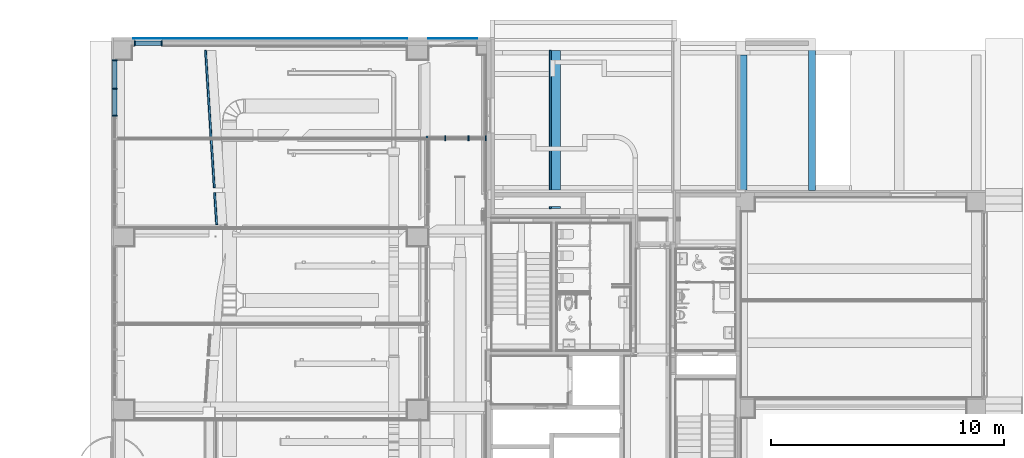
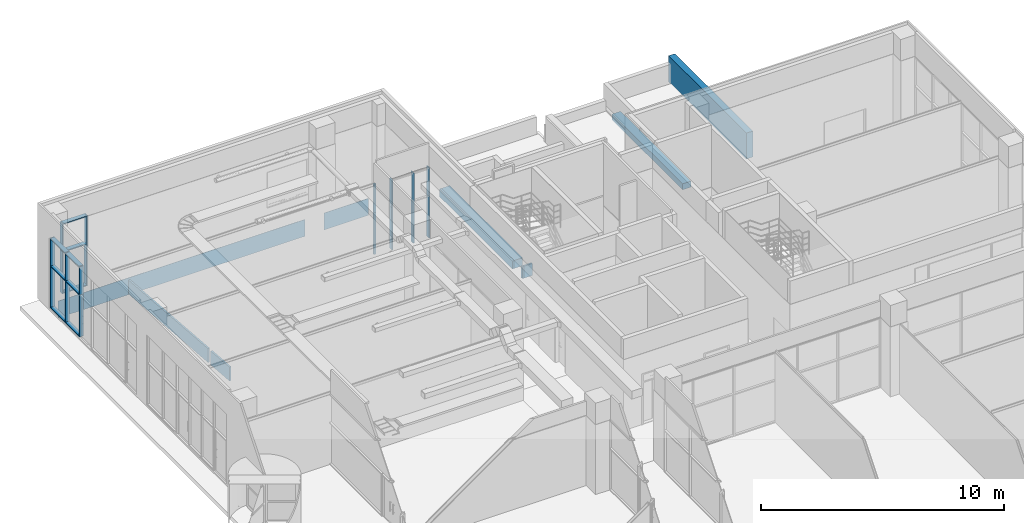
# One storey, part 16 of 100: 27 members, 7 beams, 4 elements without a shape of their own.
"""IFC2X3 building model written with IfcOpenShell, lengths in millimetres."""

import ifcopenshell
import ifcopenshell.guid

model = None  # the IFC model being written
_history = None  # IfcOwnerHistory: only IFC2X3 demands one
_inside = {}  # id of a spatial element -> (the spatial element, [elements in it])
_under = {}  # id of a project, library or spatial element -> (it, [spatial elements below it])
_declared = {}  # id of a project -> (the project, [libraries it declares])
_typed = {}  # id of a type object -> (the type object, [elements of that type])
_made_of = {}  # id of a material, layer set ... -> (it, [elements and type objects made of it])


def new_model(schema):
    """Start an empty IFC model of exactly this schema.

    Asked for "IFC4X3", IfcOpenShell would pick the latest addendum, in which some entities
    have other attributes; the version numbers below select the first issue.
    IFC2X3 requires an IfcOwnerHistory on every rooted entity: one is made here for all.
    """
    global model, _history
    if schema == "IFC4X3":
        model = ifcopenshell.file(schema_version=(4, 3, 0, 0))
    else:
        model = ifcopenshell.file(schema=schema)
    _inside.clear()
    _under.clear()
    _declared.clear()
    _typed.clear()
    _made_of.clear()
    _history = None
    if model.schema == "IFC2X3":
        org = make("IfcOrganization", Name="unknown")
        user = make(
            "IfcPersonAndOrganization",
            ThePerson=make("IfcPerson", FamilyName="unknown"),
            TheOrganization=org,
        )
        app = make(
            "IfcApplication",
            ApplicationDeveloper=org,
            Version="unknown",
            ApplicationFullName="unknown",
            ApplicationIdentifier="unknown",
        )
        _history = make(
            "IfcOwnerHistory",
            OwningUser=user,
            OwningApplication=app,
            ChangeAction="ADDED",
            CreationDate=0,
        )
    return model


def make(cls, **values):
    """One entity of the class cls with the attributes given. An attribute that is None is left unset."""
    return model.create_entity(
        cls, **{name: value for name, value in values.items() if value is not None}
    )


def entity(cls, *values):
    """Any entity or typed value of the class cls, its attributes in the order of the schema. None: left unset."""
    e = model.create_entity(cls)
    for i, value in enumerate(values):
        if value is not None:
            e[i] = value
    return e


def rooted(cls, **values):
    """An entity with a GlobalId (a new one), such as an element, a storey or a relation."""
    return make(cls, GlobalId=ifcopenshell.guid.new(), OwnerHistory=_history, **values)


def si_unit(unit_type, name, prefix=None):
    """IfcSIUnit, for example si_unit("LENGTHUNIT", "METRE", prefix="MILLI")."""
    return make("IfcSIUnit", UnitType=unit_type, Prefix=prefix, Name=name)


def converted_unit(unit_type, name, factor, base, dimensions=None, offset=None):
    """IfcConversionBasedUnit, such as the inch: factor (a typed value) times the base unit."""
    return make(
        "IfcConversionBasedUnit"
        if offset is None
        else "IfcConversionBasedUnitWithOffset",
        ConversionOffset=offset,
        Dimensions=None
        if dimensions is None
        else entity("IfcDimensionalExponents", *dimensions),
        UnitType=unit_type,
        Name=name,
        ConversionFactor=make(
            "IfcMeasureWithUnit", ValueComponent=factor, UnitComponent=base
        ),
    )


def derived_unit(unit_type, elements):
    """IfcDerivedUnit: a product of units, each with its exponent."""
    return make(
        "IfcDerivedUnit",
        Elements=[
            make("IfcDerivedUnitElement", Unit=unit, Exponent=power)
            for unit, power in elements
        ],
        UnitType=unit_type,
    )


def assignment(units):
    """IfcUnitAssignment: the units of a project."""
    return None if units is None else make("IfcUnitAssignment", Units=units)


def point(xyz):
    """IfcCartesianPoint."""
    return None if xyz is None else make("IfcCartesianPoint", Coordinates=xyz)


def direction(xyz):
    """IfcDirection."""
    return None if xyz is None else make("IfcDirection", DirectionRatios=xyz)


def frame(location, z_axis=None, x_axis=None):
    """IfcAxis2Placement3D, a coordinate frame: its origin and axes. An axis left out is left unset."""
    return make(
        "IfcAxis2Placement3D",
        Location=point(location),
        Axis=direction(z_axis),
        RefDirection=direction(x_axis),
    )


def frame_2d(location, x_axis=None):
    """IfcAxis2Placement2D, a coordinate frame in the plane: its origin and x axis."""
    return make(
        "IfcAxis2Placement2D", Location=point(location), RefDirection=direction(x_axis)
    )


def origin():
    """The frame at (0, 0, 0) with its axes left unset."""
    return frame((0.0, 0.0, 0.0))


def origin_2d_with_axis():
    """The frame at (0, 0) in the plane with the x axis (1, 0) written out."""
    return frame_2d((0.0, 0.0), x_axis=(1.0, 0.0))


def place(relative_to, where):
    """IfcLocalPlacement: puts the frame where relative to a parent placement (None: the world)."""
    return make(
        "IfcLocalPlacement", PlacementRelTo=relative_to, RelativePlacement=where
    )


def context(
    kind, dimensions, precision=None, world=None, true_north=None, identifier=None
):
    """IfcGeometricRepresentationContext, for example the 3D "Model" context."""
    return make(
        "IfcGeometricRepresentationContext",
        ContextIdentifier=identifier,
        ContextType=kind,
        CoordinateSpaceDimension=dimensions,
        Precision=precision,
        WorldCoordinateSystem=world,
        TrueNorth=true_north,
    )


def subcontext(parent, identifier, kind, view, scale=None):
    """IfcGeometricRepresentationSubContext, for example "Body" below "Model"."""
    return make(
        "IfcGeometricRepresentationSubContext",
        ContextIdentifier=identifier,
        ContextType=kind,
        ParentContext=parent,
        TargetScale=scale,
        TargetView=view,
    )


def project(units=None, contexts=None):
    """IfcProject with its units and contexts."""
    return rooted(
        "IfcProject",
        Name="project",
        RepresentationContexts=contexts,
        UnitsInContext=assignment(units),
    )


def spatial(cls, under=None, at=None, **own):
    """A site, building, storey or space (cls), placed at a placement, below another one or the project."""
    s = rooted(cls, ObjectPlacement=at, **own)
    if under is not None:
        _under.setdefault(under.id(), (under, []))[1].append(s)
    return s


def profile(cls, at=None, kind="AREA", **sizes):
    """A parametric profile (cls). Its sizes go by their IFC names, for example OverallWidth=200.0."""
    return make(cls, ProfileType=kind, Position=at, **sizes)


def rectangle(**sizes):
    """IfcRectangleProfileDef."""
    return profile("IfcRectangleProfileDef", **sizes)


def extrude(swept, where, along, depth):
    """IfcExtrudedAreaSolid: the profile swept, set in the frame where, extruded along a direction by depth."""
    return make(
        "IfcExtrudedAreaSolid",
        SweptArea=swept,
        Position=where,
        ExtrudedDirection=direction(along),
        Depth=depth,
    )


def clip(a, b, op="DIFFERENCE"):
    """IfcBooleanClippingResult: the solid a cut by the half space b."""
    return make(
        "IfcBooleanClippingResult", Operator=op, FirstOperand=a, SecondOperand=b
    )


def halfspace(plane, agree):
    """IfcHalfSpaceSolid: all space on one side of the plane z = 0 of the frame plane."""
    return make(
        "IfcHalfSpaceSolid",
        BaseSurface=make("IfcPlane", Position=plane),
        AgreementFlag=agree,
    )


def shape(context_of_items, identifier, shape_type, items):
    """IfcShapeRepresentation: the items that make up one representation, for example the "Body"."""
    return make(
        "IfcShapeRepresentation",
        ContextOfItems=context_of_items,
        RepresentationIdentifier=identifier,
        RepresentationType=shape_type,
        Items=items,
    )


def source(mapping_origin, context_of_items, identifier, shape_type, items):
    """IfcRepresentationMap: a shape defined once, which mapped items show again and again."""
    return make(
        "IfcRepresentationMap",
        MappingOrigin=mapping_origin,
        MappedRepresentation=shape(context_of_items, identifier, shape_type, items),
    )


def transform(
    local_origin,
    x_axis=None,
    y_axis=None,
    z_axis=None,
    scale=None,
    scale2=None,
    scale3=None,
    uniform=True,
):
    """IfcCartesianTransformationOperator3D, or its non-uniform kind. x_axis, y_axis, z_axis: its Axis1, 2, 3."""
    if uniform:
        return make(
            "IfcCartesianTransformationOperator3D",
            Axis1=direction(x_axis),
            Axis2=direction(y_axis),
            LocalOrigin=point(local_origin),
            Scale=scale,
            Axis3=direction(z_axis),
        )
    return make(
        "IfcCartesianTransformationOperator3DnonUniform",
        Axis1=direction(x_axis),
        Axis2=direction(y_axis),
        LocalOrigin=point(local_origin),
        Scale=scale,
        Axis3=direction(z_axis),
        Scale2=scale2,
        Scale3=scale3,
    )


def mapped(mapping_source, mapping_target):
    """IfcMappedItem: shows the shape of a source again, moved by a transform."""
    return make(
        "IfcMappedItem", MappingSource=mapping_source, MappingTarget=mapping_target
    )


def material(Name=None, Category=None):
    """IfcMaterial."""
    return make("IfcMaterial", Name=Name, Category=Category)


def made_of(thing, what):
    """Note that an element or type object is made of a material, layer set ...; save() writes the relation."""
    if what is not None:
        _made_of.setdefault(what.id(), (what, []))[1].append(thing)
    return thing


def type_object(cls, material=None, **own):
    """A type object (cls), such as IfcWallType, which elements share."""
    return made_of(rooted(cls, **own), material)


def type_shapes(of_type, sources):
    """Give a type object the sources (RepresentationMaps) that its elements show as mapped items."""
    of_type.RepresentationMaps = sources


def element(
    cls,
    number,
    at=None,
    inside=None,
    cuts=None,
    type_object=None,
    material=None,
    context=None,
    identifier="Body",
    shape_type=None,
    held_by="IfcProductDefinitionShape",
    body=None,
    shapes=None,
    **own,
):
    """One element of the class cls, such as IfcWall. Its Tag is "e" and its number.

    at: its placement. inside: the storey or other place that contains it. cuts: it is an
    opening in that element (IfcRelVoidsElement). A single representation is given by context,
    identifier, shape_type and body (its items); several are given by shapes. held_by: the class
    of the entity that holds the representations. save() writes the other relations.
    """
    e = rooted(cls, Tag="e%d" % number, ObjectPlacement=at, **own)
    if body is not None:
        shapes = [shape(context, identifier, shape_type, body)]
    if shapes is not None:
        e.Representation = make(held_by, Representations=shapes)
    if inside is not None:
        _inside.setdefault(inside.id(), (inside, []))[1].append(e)
    if cuts is not None:
        rooted(
            "IfcRelVoidsElement", RelatingBuildingElement=cuts, RelatedOpeningElement=e
        )
    if type_object is not None:
        _typed.setdefault(type_object.id(), (type_object, []))[1].append(e)
    return made_of(e, material)


def aggregate(whole, parts):
    """IfcRelAggregates: a whole, such as a stair, and the parts it consists of."""
    return rooted("IfcRelAggregates", RelatingObject=whole, RelatedObjects=parts)


def save(model, path):
    """Write the relations noted so far, then the file.

    IfcRelAggregates (storeys below a building ...), IfcRelContainedInSpatialStructure (elements
    in a storey), IfcRelDefinesByType, IfcRelAssociatesMaterial and IfcRelDeclares: one each for
    every whole, place, type object, material and project.
    """
    for whole, parts in _under.values():
        aggregate(whole, parts)
    for where, things in _inside.values():
        rooted(
            "IfcRelContainedInSpatialStructure",
            RelatedElements=things,
            RelatingStructure=where,
        )
    for kind, things in _typed.values():
        rooted("IfcRelDefinesByType", RelatedObjects=things, RelatingType=kind)
    for what, things in _made_of.values():
        rooted("IfcRelAssociatesMaterial", RelatedObjects=things, RelatingMaterial=what)
    for by, libraries in _declared.values():
        rooted("IfcRelDeclares", RelatingContext=by, RelatedDefinitions=libraries)
    model.write(path)


model = new_model("IFC2X3")

# Units and contexts
model_context = context("Model", 3, precision=0.01, world=origin(), true_north=direction((6.123031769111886e-17, 1.0)))
body_context = subcontext(model_context, "Body", "Model", "MODEL_VIEW")
ifc_project = project(units=[si_unit("LENGTHUNIT", "METRE", prefix="MILLI"), si_unit("AREAUNIT", "SQUARE_METRE"), si_unit("VOLUMEUNIT", "CUBIC_METRE"), converted_unit("PLANEANGLEUNIT", "DEGREE", entity("IfcRatioMeasure", 0.017453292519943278), si_unit("PLANEANGLEUNIT", "RADIAN"), dimensions=[0, 0, 0, 0, 0, 0, 0]), si_unit("MASSUNIT", "GRAM", prefix="KILO"), derived_unit("MASSDENSITYUNIT", [(si_unit("MASSUNIT", "GRAM", prefix="KILO"), 1), (si_unit("LENGTHUNIT", "METRE"), -3)]), derived_unit("MOMENTOFINERTIAUNIT", [(si_unit("LENGTHUNIT", "METRE"), 4)]), si_unit("TIMEUNIT", "SECOND"), si_unit("FREQUENCYUNIT", "HERTZ"), si_unit("THERMODYNAMICTEMPERATUREUNIT", "DEGREE_CELSIUS"), derived_unit("THERMALTRANSMITTANCEUNIT", [(si_unit("MASSUNIT", "GRAM", prefix="KILO"), 1), (si_unit("THERMODYNAMICTEMPERATUREUNIT", "KELVIN"), -1), (si_unit("TIMEUNIT", "SECOND"), -3)]), derived_unit("VOLUMETRICFLOWRATEUNIT", [(si_unit("LENGTHUNIT", "METRE"), 3), (si_unit("TIMEUNIT", "SECOND"), -1)]), derived_unit("MASSFLOWRATEUNIT", [(si_unit("MASSUNIT", "GRAM", prefix="KILO"), 1), (si_unit("TIMEUNIT", "SECOND"), -1)]), derived_unit("ROTATIONALFREQUENCYUNIT", [(si_unit("TIMEUNIT", "SECOND"), -1)]), si_unit("ELECTRICCURRENTUNIT", "AMPERE"), si_unit("ELECTRICVOLTAGEUNIT", "VOLT"), si_unit("POWERUNIT", "WATT"), si_unit("FORCEUNIT", "NEWTON", prefix="KILO"), si_unit("ILLUMINANCEUNIT", "LUX"), si_unit("LUMINOUSFLUXUNIT", "LUMEN"), si_unit("LUMINOUSINTENSITYUNIT", "CANDELA"), derived_unit("USERDEFINED", [(si_unit("MASSUNIT", "GRAM", prefix="KILO"), -1), (si_unit("LENGTHUNIT", "METRE"), -2), (si_unit("TIMEUNIT", "SECOND"), 3), (si_unit("LUMINOUSFLUXUNIT", "LUMEN"), 1)]), derived_unit("SOUNDPOWERUNIT", [(si_unit("MASSUNIT", "GRAM", prefix="KILO"), 1), (si_unit("LENGTHUNIT", "METRE"), 2), (si_unit("TIMEUNIT", "SECOND"), -3)]), derived_unit("SOUNDPRESSUREUNIT", [(si_unit("MASSUNIT", "GRAM", prefix="KILO"), 1), (si_unit("LENGTHUNIT", "METRE"), -1), (si_unit("TIMEUNIT", "SECOND"), -2)]), derived_unit("LINEARVELOCITYUNIT", [(si_unit("LENGTHUNIT", "METRE"), 1), (si_unit("TIMEUNIT", "SECOND"), -1)]), si_unit("PRESSUREUNIT", "PASCAL"), derived_unit("USERDEFINED", [(si_unit("LENGTHUNIT", "METRE"), -2), (si_unit("MASSUNIT", "GRAM", prefix="KILO"), 1), (si_unit("TIMEUNIT", "SECOND"), -2)]), derived_unit("LINEARFORCEUNIT", [(si_unit("MASSUNIT", "GRAM", prefix="KILO"), 1), (si_unit("LENGTHUNIT", "METRE"), 1), (si_unit("TIMEUNIT", "SECOND"), -2), (si_unit("LENGTHUNIT", "METRE"), -1)]), derived_unit("PLANARFORCEUNIT", [(si_unit("MASSUNIT", "GRAM", prefix="KILO"), 1), (si_unit("LENGTHUNIT", "METRE"), 1), (si_unit("TIMEUNIT", "SECOND"), -2), (si_unit("LENGTHUNIT", "METRE"), -2)])], contexts=[model_context])

# Site, building, storey
site_placement = place(None, frame((-14167.972527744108, -657.2125860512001, 0.0)))
site = spatial("IfcSite", under=ifc_project, at=site_placement, Name="Default", CompositionType="ELEMENT")
building_placement = place(site_placement, origin())
building = spatial("IfcBuilding", under=site, at=building_placement, Name="Sample Building", CompositionType="ELEMENT")
storey_placement = place(building_placement, origin())
storey = spatial("IfcBuildingStorey", under=building, at=storey_placement, Name="지상 1층", CompositionType="ELEMENT", Elevation=0.0)

# Curtain wall, members
curtain_wall_type = type_object("IfcCurtainWallType", Name="커튼월:CW112-스테인리스 스틸 커튼월", PredefinedType="NOTDEFINED")
curtain_wall_1_placement = place(storey_placement, origin())
curtain_wall_1 = element("IfcCurtainWall", 1, at=curtain_wall_1_placement, inside=storey, type_object=curtain_wall_type, Name="커튼월:CW112-스테인리스 스틸 커튼월", ObjectType="커튼월:CW112-스테인리스 스틸 커튼월")
ifc_material_1 = material(Name="<Unnamed>")
member_type_1 = type_object("IfcMemberType", Name="직사각형 멀리언:CW200-직사각형 멀리언 50x200mm", PredefinedType="MULLION", material=ifc_material_1)
shared_shape_1 = source(origin(), body_context, "Body", "SweptSolid", [
    extrude(rectangle(XDim=200.0, YDim=50.0, at=origin_2d_with_axis()), frame((-25.0, 0.0, -1175.0), z_axis=(0.0, 0.0, 1.0), x_axis=(0.0, -1.0, 0.0)), (0.0, 0.0, 1.0), 1175.0000000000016),
])
type_shapes(member_type_1, [shared_shape_1])
member_1_placement = place(curtain_wall_1_placement, frame((14130.455105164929, 34907.21228055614, 80.0), z_axis=(0.0, 1.0, 0.0), x_axis=(0.0, 0.0, -1.0)))
member_1 = element("IfcMember", 2, at=member_1_placement, type_object=member_type_1, material=ifc_material_1, Name="직사각형 멀리언:CW200-직사각형 멀리언 50x200mm", ObjectType="직사각형 멀리언:CW200-직사각형 멀리언 50x200mm", context=body_context, shape_type="MappedRepresentation", body=[
    mapped(shared_shape_1, transform((0.0, 0.0, 0.0), scale=1.0)),
])
member_type_2 = type_object("IfcMemberType", Name="직사각형 멀리언:CW200-직사각형 멀리언 50x200mm", PredefinedType="MULLION", material=ifc_material_1)
shared_shape_2 = source(origin(), body_context, "Body", "SweptSolid", [
    extrude(rectangle(XDim=200.0, YDim=50.0, at=origin_2d_with_axis()), frame((-25.0, 0.0, -1420.0), z_axis=(0.0, 0.0, 1.0), x_axis=(0.0, -1.0, 0.0)), (0.0, 0.0, 1.0), 1420.0000000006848),
])
type_shapes(member_type_2, [shared_shape_2])
member_2_placement = place(curtain_wall_1_placement, frame((14130.455105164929, 34957.21228055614, 3600.0), z_axis=(0.0, 0.0, 1.0), x_axis=(0.0, 1.0, 0.0)))
member_2 = element("IfcMember", 3, at=member_2_placement, type_object=member_type_2, material=ifc_material_1, Name="직사각형 멀리언:CW200-직사각형 멀리언 50x200mm", ObjectType="직사각형 멀리언:CW200-직사각형 멀리언 50x200mm", context=body_context, shape_type="MappedRepresentation", body=[
    mapped(shared_shape_2, transform((0.0, 0.0, 0.0), scale=1.0)),
])

# Curtain wall, member
curtain_wall_2_placement = place(storey_placement, origin())
curtain_wall_2 = element("IfcCurtainWall", 4, at=curtain_wall_2_placement, inside=storey, type_object=curtain_wall_type, Name="커튼월:CW112-스테인리스 스틸 커튼월", ObjectType="커튼월:CW112-스테인리스 스틸 커튼월")
member_3_placement = place(curtain_wall_2_placement, frame((14967.998485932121, 35657.21229514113, 3600.0), z_axis=(0.0, 0.0, 1.0), x_axis=(-1.0, 0.0, 0.0)))
member_3 = element("IfcMember", 5, at=member_3_placement, type_object=member_type_2, material=ifc_material_1, Name="직사각형 멀리언:CW200-직사각형 멀리언 50x200mm", ObjectType="직사각형 멀리언:CW200-직사각형 멀리언 50x200mm", context=body_context, shape_type="MappedRepresentation", body=[
    mapped(shared_shape_2, transform((0.0, 0.0, 0.0), scale=1.0)),
])

# Member
member_type_3 = type_object("IfcMemberType", Name="직사각형 멀리언:CW200-직사각형 멀리언 50x200mm", PredefinedType="MULLION", material=ifc_material_1)
shared_shape_3 = source(origin(), body_context, "Body", "SweptSolid", [
    extrude(rectangle(XDim=200.0, YDim=50.0, at=origin_2d_with_axis()), frame((-25.0, 0.0, -1175.0), z_axis=(0.0, 0.0, 1.0), x_axis=(0.0, -1.0, 0.0)), (0.0, 0.0, 1.0), 1175.000000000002),
])
type_shapes(member_type_3, [shared_shape_3])
member_4_placement = place(curtain_wall_1_placement, frame((14130.455105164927, 33732.177748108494, 3600.0), z_axis=(0.0, -1.0, 0.0), x_axis=(0.0, 0.0, 1.0)))
member_4 = element("IfcMember", 6, at=member_4_placement, type_object=member_type_3, material=ifc_material_1, Name="직사각형 멀리언:CW200-직사각형 멀리언 50x200mm", ObjectType="직사각형 멀리언:CW200-직사각형 멀리언 50x200mm", context=body_context, shape_type="MappedRepresentation", body=[
    mapped(shared_shape_3, transform((0.0, 0.0, 0.0), scale=1.0)),
])

member_type_4 = type_object("IfcMemberType", Name="직사각형 멀리언:CW200-직사각형 멀리언 50x200mm", PredefinedType="MULLION", material=ifc_material_1)
shared_shape_4 = source(origin(), body_context, "Body", "SweptSolid", [
    extrude(rectangle(XDim=200.0, YDim=50.0, at=origin_2d_with_axis()), frame((-25.0, 0.0, -1100.0), z_axis=(0.0, 0.0, 1.0), x_axis=(0.0, -1.0, 0.0)), (0.0, 0.0, 1.0), 1100.0000000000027),
])
type_shapes(member_type_4, [shared_shape_4])
member_5_placement = place(curtain_wall_1_placement, frame((14130.455105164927, 33682.1777481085, 80.0), z_axis=(0.0, 1.0, 0.0), x_axis=(0.0, 0.0, -1.0)))
member_5 = element("IfcMember", 7, at=member_5_placement, type_object=member_type_4, material=ifc_material_1, Name="직사각형 멀리언:CW200-직사각형 멀리언 50x200mm", ObjectType="직사각형 멀리언:CW200-직사각형 멀리언 50x200mm", context=body_context, shape_type="MappedRepresentation", body=[
    mapped(shared_shape_4, transform((0.0, 0.0, 0.0), scale=1.0)),
])

member_6_placement = place(curtain_wall_2_placement, frame((15017.998485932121, 35657.21229514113, 80.0), z_axis=(-1.0, 0.0, 0.0), x_axis=(0.0, 0.0, -1.0)))
member_6 = element("IfcMember", 8, at=member_6_placement, type_object=member_type_4, material=ifc_material_1, Name="직사각형 멀리언:CW200-직사각형 멀리언 50x200mm", ObjectType="직사각형 멀리언:CW200-직사각형 멀리언 50x200mm", context=body_context, shape_type="MappedRepresentation", body=[
    mapped(shared_shape_4, transform((0.0, 0.0, 0.0), scale=1.0)),
])

member_type_5 = type_object("IfcMemberType", Name="직사각형 멀리언:CW200-직사각형 멀리언 50x200mm", PredefinedType="MULLION", material=ifc_material_1)
shared_shape_5 = source(origin(), body_context, "Body", "SweptSolid", [
    extrude(rectangle(XDim=200.0, YDim=50.0, at=origin_2d_with_axis()), frame((0.0, 0.0, -2100.0), z_axis=(0.0, 0.0, 1.0), x_axis=(0.0, -1.0, 0.0)), (0.0, 0.0, 1.0), 2100.0),
])
type_shapes(member_type_5, [shared_shape_5])
member_7_placement = place(curtain_wall_1_placement, frame((14130.455105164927, 33707.177748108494, 80.0), z_axis=(0.0, 0.0, -1.0), x_axis=(0.0, -1.0, 0.0)))
member_7 = element("IfcMember", 9, at=member_7_placement, type_object=member_type_5, material=ifc_material_1, Name="직사각형 멀리언:CW200-직사각형 멀리언 50x200mm", ObjectType="직사각형 멀리언:CW200-직사각형 멀리언 50x200mm", context=body_context, shape_type="MappedRepresentation", body=[
    mapped(shared_shape_5, transform((0.0, 0.0, 0.0), scale=1.0)),
])

member_8_placement = place(curtain_wall_1_placement, frame((14130.455105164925, 32557.177748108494, 80.0), z_axis=(0.0, 0.0, -1.0), x_axis=(0.0, -1.0, 0.0)))
member_8 = element("IfcMember", 10, at=member_8_placement, type_object=member_type_5, material=ifc_material_1, Name="직사각형 멀리언:CW200-직사각형 멀리언 50x200mm", ObjectType="직사각형 멀리언:CW200-직사각형 멀리언 50x200mm", context=body_context, shape_type="MappedRepresentation", body=[
    mapped(shared_shape_5, transform((0.0, 0.0, 0.0), scale=1.0)),
])

# Curtain wall, members
curtain_wall_3_placement = place(storey_placement, origin())
curtain_wall_3 = element("IfcCurtainWall", 11, at=curtain_wall_3_placement, inside=storey, type_object=curtain_wall_type, Name="커튼월:CW112-스테인리스 스틸 커튼월", ObjectType="커튼월:CW112-스테인리스 스틸 커튼월")
member_9_placement = place(curtain_wall_3_placement, frame((28299.125814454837, 31587.177748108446, 80.0), z_axis=(0.0, 0.0, -1.0), x_axis=(1.0, 0.0, 0.0)))
member_9 = element("IfcMember", 12, at=member_9_placement, type_object=member_type_5, material=ifc_material_1, Name="직사각형 멀리언:CW200-직사각형 멀리언 50x200mm", ObjectType="직사각형 멀리언:CW200-직사각형 멀리언 50x200mm", context=body_context, shape_type="MappedRepresentation", body=[
    mapped(shared_shape_5, transform((0.0, 0.0, 0.0), scale=1.0)),
])
member_10_placement = place(curtain_wall_3_placement, frame((29299.125814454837, 31587.177748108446, 80.0), z_axis=(0.0, 0.0, -1.0), x_axis=(1.0, 0.0, 0.0)))
member_10 = element("IfcMember", 13, at=member_10_placement, type_object=member_type_5, material=ifc_material_1, Name="직사각형 멀리언:CW200-직사각형 멀리언 50x200mm", ObjectType="직사각형 멀리언:CW200-직사각형 멀리언 50x200mm", context=body_context, shape_type="MappedRepresentation", body=[
    mapped(shared_shape_5, transform((0.0, 0.0, 0.0), scale=1.0)),
])

# Member
member_type_6 = type_object("IfcMemberType", Name="직사각형 멀리언:CW200-직사각형 멀리언 50x200mm", PredefinedType="MULLION", material=ifc_material_1)
shared_shape_6 = source(origin(), body_context, "Body", "SweptSolid", [
    extrude(rectangle(XDim=200.0, YDim=50.0, at=origin_2d_with_axis()), frame((-25.0, 0.0, -1100.0), z_axis=(0.0, 0.0, 1.0), x_axis=(0.0, -1.0, 0.0)), (0.0, 0.0, 1.0), 1100.0000000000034),
])
type_shapes(member_type_6, [shared_shape_6])
member_11_placement = place(curtain_wall_1_placement, frame((14130.455105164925, 32582.177748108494, 3600.0), z_axis=(0.0, -1.0, 0.0), x_axis=(0.0, 0.0, 1.0)))
member_11 = element("IfcMember", 14, at=member_11_placement, type_object=member_type_6, material=ifc_material_1, Name="직사각형 멀리언:CW200-직사각형 멀리언 50x200mm", ObjectType="직사각형 멀리언:CW200-직사각형 멀리언 50x200mm", context=body_context, shape_type="MappedRepresentation", body=[
    mapped(shared_shape_6, transform((0.0, 0.0, 0.0), scale=1.0)),
])

member_12_placement = place(curtain_wall_2_placement, frame((16117.998485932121, 35657.21229514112, 3600.0), z_axis=(1.0, 0.0, 0.0), x_axis=(0.0, 0.0, 1.0)))
member_12 = element("IfcMember", 15, at=member_12_placement, type_object=member_type_6, material=ifc_material_1, Name="직사각형 멀리언:CW200-직사각형 멀리언 50x200mm", ObjectType="직사각형 멀리언:CW200-직사각형 멀리언 50x200mm", context=body_context, shape_type="MappedRepresentation", body=[
    mapped(shared_shape_6, transform((0.0, 0.0, 0.0), scale=1.0)),
])

member_type_7 = type_object("IfcMemberType", Name="직사각형 멀리언:CW200-직사각형 멀리언 50x200mm", PredefinedType="MULLION", material=ifc_material_1)
shared_shape_7 = source(origin(), body_context, "Body", "SweptSolid", [
    extrude(rectangle(XDim=200.0, YDim=50.0, at=origin_2d_with_axis()), frame((-25.0, 0.0, -1420.0), z_axis=(0.0, 0.0, 1.0), x_axis=(0.0, -1.0, 0.0)), (0.0, 0.0, 1.0), 1420.0000000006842),
])
type_shapes(member_type_7, [shared_shape_7])
member_13_placement = place(curtain_wall_2_placement, frame((16167.998485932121, 35657.21229514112, 2180.0), z_axis=(0.0, 0.0, -1.0), x_axis=(1.0, 0.0, 0.0)))
member_13 = element("IfcMember", 16, at=member_13_placement, type_object=member_type_7, material=ifc_material_1, Name="직사각형 멀리언:CW200-직사각형 멀리언 50x200mm", ObjectType="직사각형 멀리언:CW200-직사각형 멀리언 50x200mm", context=body_context, shape_type="MappedRepresentation", body=[
    mapped(shared_shape_7, transform((0.0, 0.0, 0.0), scale=1.0)),
])

member_14_placement = place(curtain_wall_3_placement, frame((30066.125814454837, 31587.177748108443, 2180.0), z_axis=(0.0, 0.0, -1.0), x_axis=(1.0, 0.0, 0.0)))
member_14 = element("IfcMember", 17, at=member_14_placement, type_object=member_type_7, material=ifc_material_1, Name="직사각형 멀리언:CW200-직사각형 멀리언 50x200mm", ObjectType="직사각형 멀리언:CW200-직사각형 멀리언 50x200mm", context=body_context, shape_type="MappedRepresentation", body=[
    mapped(shared_shape_7, transform((0.0, 0.0, 0.0), scale=1.0)),
])

member_type_8 = type_object("IfcMemberType", Name="직사각형 멀리언:CW200-직사각형 멀리언 50x200mm", PredefinedType="MULLION", material=ifc_material_1)
shared_shape_8 = source(origin(), body_context, "Body", "SweptSolid", [
    extrude(rectangle(XDim=200.0, YDim=50.0, at=origin_2d_with_axis()), frame((-25.0, 0.0, -2100.0), z_axis=(0.0, 0.0, 1.0), x_axis=(0.0, -1.0, 0.0)), (0.0, 0.0, 1.0), 2099.9999999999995),
])
type_shapes(member_type_8, [shared_shape_8])
member_15_placement = place(curtain_wall_1_placement, frame((14130.455105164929, 34957.21228055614, 2180.0), z_axis=(0.0, 0.0, 1.0), x_axis=(0.0, 1.0, 0.0)))
member_15 = element("IfcMember", 18, at=member_15_placement, type_object=member_type_8, material=ifc_material_1, Name="직사각형 멀리언:CW200-직사각형 멀리언 50x200mm", ObjectType="직사각형 멀리언:CW200-직사각형 멀리언 50x200mm", context=body_context, shape_type="MappedRepresentation", body=[
    mapped(shared_shape_8, transform((0.0, 0.0, 0.0), scale=1.0)),
])

member_16_placement = place(curtain_wall_2_placement, frame((14967.998485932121, 35657.21229514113, 2180.0), z_axis=(0.0, 0.0, 1.0), x_axis=(-1.0, 0.0, 0.0)))
member_16 = element("IfcMember", 19, at=member_16_placement, type_object=member_type_8, material=ifc_material_1, Name="직사각형 멀리언:CW200-직사각형 멀리언 50x200mm", ObjectType="직사각형 멀리언:CW200-직사각형 멀리언 50x200mm", context=body_context, shape_type="MappedRepresentation", body=[
    mapped(shared_shape_8, transform((0.0, 0.0, 0.0), scale=1.0)),
])

member_type_9 = type_object("IfcMemberType", Name="직사각형 멀리언:CW200-직사각형 멀리언 50x200mm", PredefinedType="MULLION", material=ifc_material_1)
shared_shape_9 = source(origin(), body_context, "Body", "SweptSolid", [
    extrude(rectangle(XDim=200.0, YDim=50.0, at=origin_2d_with_axis()), frame((0.0, 0.0, -1175.0), z_axis=(0.0, 0.0, 1.0), x_axis=(0.0, -1.0, 0.0)), (0.0, 0.0, 1.0), 1175.0000000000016),
])
type_shapes(member_type_9, [shared_shape_9])
member_17_placement = place(curtain_wall_1_placement, frame((14130.455105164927, 33732.177748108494, 2180.0), z_axis=(0.0, -1.0, 0.0), x_axis=(0.0, 0.0, 1.0)))
member_17 = element("IfcMember", 20, at=member_17_placement, type_object=member_type_9, material=ifc_material_1, Name="직사각형 멀리언:CW200-직사각형 멀리언 50x200mm", ObjectType="직사각형 멀리언:CW200-직사각형 멀리언 50x200mm", context=body_context, shape_type="MappedRepresentation", body=[
    mapped(shared_shape_9, transform((0.0, 0.0, 0.0), scale=1.0)),
])

member_type_10 = type_object("IfcMemberType", Name="직사각형 멀리언:CW200-직사각형 멀리언 50x200mm", PredefinedType="MULLION", material=ifc_material_1)
shared_shape_10 = source(origin(), body_context, "Body", "SweptSolid", [
    extrude(rectangle(XDim=200.0, YDim=50.0, at=origin_2d_with_axis()), frame((0.0, 0.0, -1100.0), z_axis=(0.0, 0.0, 1.0), x_axis=(0.0, -1.0, 0.0)), (0.0, 0.0, 1.0), 1100.0000000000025),
])
type_shapes(member_type_10, [shared_shape_10])
member_18_placement = place(curtain_wall_1_placement, frame((14130.455105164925, 32582.177748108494, 2180.0), z_axis=(0.0, -1.0, 0.0), x_axis=(0.0, 0.0, 1.0)))
member_18 = element("IfcMember", 21, at=member_18_placement, type_object=member_type_10, material=ifc_material_1, Name="직사각형 멀리언:CW200-직사각형 멀리언 50x200mm", ObjectType="직사각형 멀리언:CW200-직사각형 멀리언 50x200mm", context=body_context, shape_type="MappedRepresentation", body=[
    mapped(shared_shape_10, transform((0.0, 0.0, 0.0), scale=1.0)),
])

member_19_placement = place(curtain_wall_2_placement, frame((16117.998485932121, 35657.21229514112, 2180.0), z_axis=(1.0, 0.0, 0.0), x_axis=(0.0, 0.0, 1.0)))
member_19 = element("IfcMember", 22, at=member_19_placement, type_object=member_type_10, material=ifc_material_1, Name="직사각형 멀리언:CW200-직사각형 멀리언 50x200mm", ObjectType="직사각형 멀리언:CW200-직사각형 멀리언 50x200mm", context=body_context, shape_type="MappedRepresentation", body=[
    mapped(shared_shape_10, transform((0.0, 0.0, 0.0), scale=1.0)),
])

member_type_11 = type_object("IfcMemberType", Name="직사각형 멀리언:CW200-직사각형 멀리언 50x200mm", PredefinedType="MULLION", material=ifc_material_1)
shared_shape_11 = source(origin(), body_context, "Body", "SweptSolid", [
    extrude(rectangle(XDim=200.0, YDim=50.0, at=origin_2d_with_axis()), frame((0.0, 0.0, -1420.0), z_axis=(0.0, 0.0, 1.0), x_axis=(0.0, -1.0, 0.0)), (0.0, 0.0, 1.0), 1420.0000000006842),
])
type_shapes(member_type_11, [shared_shape_11])
member_20_placement = place(curtain_wall_1_placement, frame((14130.455105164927, 33707.177748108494, 2180.0), z_axis=(0.0, 0.0, -1.0), x_axis=(0.0, -1.0, 0.0)))
member_20 = element("IfcMember", 23, at=member_20_placement, type_object=member_type_11, material=ifc_material_1, Name="직사각형 멀리언:CW200-직사각형 멀리언 50x200mm", ObjectType="직사각형 멀리언:CW200-직사각형 멀리언 50x200mm", context=body_context, shape_type="MappedRepresentation", body=[
    mapped(shared_shape_11, transform((0.0, 0.0, 0.0), scale=1.0)),
])

member_21_placement = place(curtain_wall_1_placement, frame((14130.455105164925, 32557.177748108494, 2180.0), z_axis=(0.0, 0.0, -1.0), x_axis=(0.0, -1.0, 0.0)))
member_21 = element("IfcMember", 24, at=member_21_placement, type_object=member_type_11, material=ifc_material_1, Name="직사각형 멀리언:CW200-직사각형 멀리언 50x200mm", ObjectType="직사각형 멀리언:CW200-직사각형 멀리언 50x200mm", context=body_context, shape_type="MappedRepresentation", body=[
    mapped(shared_shape_11, transform((0.0, 0.0, 0.0), scale=1.0)),
])

aggregate(curtain_wall_1, [member_1, member_2, member_4, member_5, member_7, member_11, member_8, member_15, member_17, member_18, member_20, member_21])

member_22_placement = place(curtain_wall_3_placement, frame((28299.125814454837, 31587.177748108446, 2180.0), z_axis=(0.0, 0.0, -1.0), x_axis=(1.0, 0.0, 0.0)))
member_22 = element("IfcMember", 25, at=member_22_placement, type_object=member_type_11, material=ifc_material_1, Name="직사각형 멀리언:CW200-직사각형 멀리언 50x200mm", ObjectType="직사각형 멀리언:CW200-직사각형 멀리언 50x200mm", context=body_context, shape_type="MappedRepresentation", body=[
    mapped(shared_shape_11, transform((0.0, 0.0, 0.0), scale=1.0)),
])

member_23_placement = place(curtain_wall_3_placement, frame((29299.125814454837, 31587.177748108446, 2180.0), z_axis=(0.0, 0.0, -1.0), x_axis=(1.0, 0.0, 0.0)))
member_23 = element("IfcMember", 26, at=member_23_placement, type_object=member_type_11, material=ifc_material_1, Name="직사각형 멀리언:CW200-직사각형 멀리언 50x200mm", ObjectType="직사각형 멀리언:CW200-직사각형 멀리언 50x200mm", context=body_context, shape_type="MappedRepresentation", body=[
    mapped(shared_shape_11, transform((0.0, 0.0, 0.0), scale=1.0)),
])

member_type_12 = type_object("IfcMemberType", Name="직사각형 멀리언:CW200-직사각형 멀리언 50x200mm", PredefinedType="MULLION", material=ifc_material_1)
shared_shape_12 = source(origin(), body_context, "Body", "SweptSolid", [
    extrude(rectangle(XDim=200.0, YDim=50.0, at=origin_2d_with_axis()), frame((-25.0, 0.0, -2100.0), z_axis=(0.0, 0.0, 1.0), x_axis=(0.0, -1.0, 0.0)), (0.0, 0.0, 1.0), 2100.0),
])
type_shapes(member_type_12, [shared_shape_12])
member_24_placement = place(curtain_wall_2_placement, frame((16167.998485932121, 35657.21229514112, 80.0), z_axis=(0.0, 0.0, -1.0), x_axis=(1.0, 0.0, 0.0)))
member_24 = element("IfcMember", 27, at=member_24_placement, type_object=member_type_12, material=ifc_material_1, Name="직사각형 멀리언:CW200-직사각형 멀리언 50x200mm", ObjectType="직사각형 멀리언:CW200-직사각형 멀리언 50x200mm", context=body_context, shape_type="MappedRepresentation", body=[
    mapped(shared_shape_12, transform((0.0, 0.0, 0.0), scale=1.0)),
])

aggregate(curtain_wall_2, [member_12, member_6, member_24, member_3, member_13, member_16, member_19])

member_25_placement = place(curtain_wall_3_placement, frame((30066.125814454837, 31587.177748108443, 80.0), z_axis=(0.0, 0.0, -1.0), x_axis=(1.0, 0.0, 0.0)))
member_25 = element("IfcMember", 28, at=member_25_placement, type_object=member_type_12, material=ifc_material_1, Name="직사각형 멀리언:CW200-직사각형 멀리언 50x200mm", ObjectType="직사각형 멀리언:CW200-직사각형 멀리언 50x200mm", context=body_context, shape_type="MappedRepresentation", body=[
    mapped(shared_shape_12, transform((0.0, 0.0, 0.0), scale=1.0)),
])

aggregate(curtain_wall_3, [member_25, member_14, member_9, member_22, member_10, member_23])

# Curtain wall, members
curtain_wall_4_placement = place(storey_placement, origin())
curtain_wall_4 = element("IfcCurtainWall", 29, at=curtain_wall_4_placement, inside=storey, type_object=curtain_wall_type, Name="커튼월:CW112-스테인리스 스틸 커튼월", ObjectType="커튼월:CW112-스테인리스 스틸 커튼월")
member_type_13 = type_object("IfcMemberType", Name="직사각형 멀리언:CW200-직사각형 멀리언 100 x 100mm", PredefinedType="MULLION", material=ifc_material_1)
shared_shape_13 = source(origin(), body_context, "Body", "SweptSolid", [
    extrude(rectangle(XDim=100.00000000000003, YDim=100.0, at=origin_2d_with_axis()), frame((-50.0, 0.0, -2100.0), z_axis=(0.0, 0.0, 1.0), x_axis=(0.0, -1.0, 0.0)), (0.0, 0.0, 1.0), 2100.0),
])
type_shapes(member_type_13, [shared_shape_13])
member_26_placement = place(curtain_wall_4_placement, frame((27522.955141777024, 31687.17774810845, 80.0), z_axis=(0.0, 0.0, -1.0), x_axis=(0.0, 1.0, 0.0)))
member_26 = element("IfcMember", 30, at=member_26_placement, type_object=member_type_13, material=ifc_material_1, Name="직사각형 멀리언:CW200-직사각형 멀리언 100 x 100mm", ObjectType="직사각형 멀리언:CW200-직사각형 멀리언 100 x 100mm", context=body_context, shape_type="MappedRepresentation", body=[
    mapped(shared_shape_13, transform((0.0, 0.0, 0.0), scale=1.0)),
])
member_type_14 = type_object("IfcMemberType", Name="직사각형 멀리언:CW200-직사각형 멀리언 100 x 100mm", PredefinedType="MULLION", material=ifc_material_1)
shared_shape_14 = source(origin(), body_context, "Body", "SweptSolid", [
    extrude(rectangle(XDim=100.00000000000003, YDim=100.0, at=origin_2d_with_axis()), frame((-50.0, 0.0, -1420.0), z_axis=(0.0, 0.0, 1.0), x_axis=(0.0, -1.0, 0.0)), (0.0, 0.0, 1.0), 1419.9999999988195),
])
type_shapes(member_type_14, [shared_shape_14])
member_27_placement = place(curtain_wall_4_placement, frame((27522.955141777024, 31687.17774810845, 2180.0), z_axis=(0.0, 0.0, -1.0), x_axis=(0.0, 1.0, 0.0)))
member_27 = element("IfcMember", 31, at=member_27_placement, type_object=member_type_14, material=ifc_material_1, Name="직사각형 멀리언:CW200-직사각형 멀리언 100 x 100mm", ObjectType="직사각형 멀리언:CW200-직사각형 멀리언 100 x 100mm", context=body_context, shape_type="MappedRepresentation", body=[
    mapped(shared_shape_14, transform((0.0, 0.0, 0.0), scale=1.0)),
])
aggregate(curtain_wall_4, [member_26, member_27])

# Beams
ifc_material_2 = material(Name="KBIMS-콘크리트")
beam_type_1 = type_object("IfcBeamType", Name="BM111-철근콘크리트구조 보:BM110-철근 콘크리트구조 보_400 x 850_B1-1WG1", PredefinedType="BEAM", material=ifc_material_2)
beam_1_placement = place(storey_placement, frame((14943.280586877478, 35671.0771023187, 0.0)))
element("IfcBeam", 32, at=beam_1_placement, inside=storey, type_object=beam_type_1, material=ifc_material_2, Name="BM111-철근콘크리트구조 보:BM110-철근 콘크리트구조 보_400 x 850_B1-1WG1", ObjectType="BM111-철근콘크리트구조 보:BM110-철근 콘크리트구조 보_400 x 850_B1-1WG1", context=body_context, shape_type="SweptSolid", body=[
    extrude(rectangle(XDim=849.9999999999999, YDim=13.864794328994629, at=frame_2d((5.684341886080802e-14, 3.0320190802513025e-11), x_axis=(1.0, 0.0))), frame((-12.212997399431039, 193.06760283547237, -875.0), z_axis=(1.0, 0.0, 0.0), x_axis=(0.0, 0.0, -1.0)), (0.0, 0.0, 1.0), 11736.7),
])
beam_2_placement = place(storey_placement, frame((29743.237206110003, 35671.07710231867, 0.0), z_axis=(0.0, 0.0, 1.0), x_axis=(-1.0, 0.0, 0.0)))
element("IfcBeam", 33, at=beam_2_placement, inside=storey, type_object=beam_type_1, material=ifc_material_2, Name="BM111-철근콘크리트구조 보:BM110-철근 콘크리트구조 보_400 x 850_B1-1WG1", ObjectType="BM111-철근콘크리트구조 보:BM110-철근 콘크리트구조 보_400 x 850_B1-1WG1", context=body_context, shape_type="SweptSolid", body=[
    extrude(rectangle(XDim=849.9999999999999, YDim=13.864794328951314, at=frame_2d((8.526512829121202e-14, 6.497025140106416e-12), x_axis=(1.0, 0.0))), frame((75.99130701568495, -193.0676028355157, -875.0), z_axis=(1.0, 0.0, 0.0), x_axis=(0.0, 0.0, -1.0)), (0.0, 0.0, 1.0), 2099.0),
])
beam_type_2 = type_object("IfcBeamType", Name="BM111-철근콘크리트구조 보:BM110-철근 콘크리트구조 보_400 x 600_1B3", PredefinedType="BEAM", material=ifc_material_2)
shared_shape_15 = source(origin(), body_context, "Body", "SweptSolid", [
    extrude(rectangle(XDim=400.0000000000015, YDim=400.0000000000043, at=frame_2d((-4.320099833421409e-12, 1.2789769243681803e-13), x_axis=(0.0, 1.0))), frame((33043.24589909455, 29371.077115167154, -950.0), z_axis=(0.0, 1.0, 0.0), x_axis=(-1.0, 0.0, 0.0)), (0.0, 0.0, 1.0), 5986.1351928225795),
    extrude(rectangle(XDim=600.0, YDim=400.0000000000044, at=frame_2d((0.0, -2.842170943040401e-14), x_axis=(0.0, 1.0))), frame((33043.24589909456, 28571.07711516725, -850.0), z_axis=(0.0, 1.0, 0.0), x_axis=(-1.0, 0.0, 0.0)), (0.0, 0.0, 1.0), 86.13519282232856),
])
type_shapes(beam_type_2, [shared_shape_15])
beam_3_placement = place(storey_placement, origin())
element("IfcBeam", 34, at=beam_3_placement, inside=storey, type_object=beam_type_2, material=ifc_material_2, Name="BM111-철근콘크리트구조 보:BM110-철근 콘크리트구조 보_400 x 600_1B3", ObjectType="BM111-철근콘크리트구조 보:BM110-철근 콘크리트구조 보_400 x 600_1B3", context=body_context, shape_type="MappedRepresentation", body=[
    mapped(shared_shape_15, transform((0.0, 0.0, 0.0), scale=1.0)),
])
beam_type_3 = type_object("IfcBeamType", Name="BM111-철근콘크리트구조 보:BM110-철근 콘크리트구조 보_300 x 1500_1B4(역보)", PredefinedType="NOTDEFINED")
beam_4_placement = place(storey_placement, frame((44017.9464487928, 29364.477933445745, 300.0), z_axis=(0.0, 0.0, 1.0), x_axis=(0.0, 1.0, 0.0)))
element("IfcBeam", 35, at=beam_4_placement, inside=storey, type_object=beam_type_3, material=ifc_material_2, Name="BM111-철근콘크리트구조 보:BM110-철근 콘크리트구조 보_300 x 1500_1B4(역보)", ObjectType="BM111-철근콘크리트구조 보:BM110-철근 콘크리트구조 보_300 x 1500_1B4(역보)", context=body_context, shape_type="SweptSolid", body=[
    extrude(rectangle(XDim=1299.9999999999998, YDim=300.00000000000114, at=frame_2d((1.1368683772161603e-13, 2.5977442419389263e-11), x_axis=(1.0, 0.0))), frame((-12.700000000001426, 0.0, 850.0), z_axis=(1.0, 0.0, 0.0), x_axis=(0.0, 0.0, -1.0)), (0.0, 0.0, 1.0), 6405.400000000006),
])
beam_type_4 = type_object("IfcBeamType", Name="BM111-철근콘크리트구조 보:BM110-철근 콘크리트구조 보_400 x 500_1G7(역보)", PredefinedType="NOTDEFINED")
beam_5_placement = place(storey_placement, frame((41043.2458990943, 29383.48859733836, 500.0), z_axis=(0.0, 0.0, 1.0), x_axis=(0.0, 1.0, 0.0)))
element("IfcBeam", 36, at=beam_5_placement, inside=storey, type_object=beam_type_4, material=ifc_material_2, Name="BM111-철근콘크리트구조 보:BM110-철근 콘크리트구조 보_400 x 500_1G7(역보)", ObjectType="BM111-철근콘크리트구조 보:BM110-철근 콘크리트구조 보_400 x 500_1G7(역보)", context=body_context, shape_type="SweptSolid", body=[
    extrude(rectangle(XDim=300.000000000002, YDim=400.0000000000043, at=frame_2d((2.1316282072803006e-13, -4.334310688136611e-12), x_axis=(1.0, 0.0))), frame((-12.700000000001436, 0.0, -350.0), z_axis=(1.0, 0.0, 0.0), x_axis=(0.0, 0.0, -1.0)), (0.0, 0.0, 1.0), 5786.424019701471),
])
beam_type_5 = type_object("IfcBeamType", Name="BM111-철근콘크리트구조 보:BM110-철근 콘크리트구조 보_400 x 850_B1-1WG1", PredefinedType="BEAM", material=ifc_material_2)
shared_shape_16 = source(origin(), body_context, "Body", "SweptSolid", [
    clip(clip(extrude(rectangle(XDim=700.0000000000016, YDim=82.3910606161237, at=frame_2d((-1.4210854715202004e-13, 3.2436275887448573e-12), x_axis=(1.0, 0.0))), frame((18397.861712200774, 29454.59141326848, -500.0), z_axis=(-0.0636208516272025, 0.9979741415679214, 0.0), x_axis=(0.0, 0.0, 1.0)), (0.0, 0.0, 1.0), 5917.229555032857), halfspace(frame((20029.25748420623, 29457.212307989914, -6100.0), z_axis=(0.0, -1.0, 0.0), x_axis=(-1.0, 0.0, 0.0)), False)), halfspace(frame((26667.468139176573, 35357.21260419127, -450.0), z_axis=(0.0, 1.0, 0.0), x_axis=(-1.0, 0.0, 0.0)), False)),
    clip(clip(extrude(rectangle(XDim=700.0000000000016, YDim=82.39106061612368, at=frame_2d((-1.4210854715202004e-13, -1.0764722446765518e-12), x_axis=(1.0, 0.0))), frame((18498.977830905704, 27868.456220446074, -500.0), z_axis=(-0.06362085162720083, 0.9979741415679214, 0.0), x_axis=(0.0, 0.0, 1.0)), (0.0, 0.0, 1.0), 1394.201437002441), halfspace(frame((18167.231797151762, 27871.07711516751, 0.0), z_axis=(0.0, -1.0, 0.0), x_axis=(-1.0, 0.0, 0.0)), False)), halfspace(frame((20029.25748420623, 29257.212307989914, -6100.0), z_axis=(0.0, 1.0, 0.0), x_axis=(1.0, 0.0, 0.0)), False)),
])
type_shapes(beam_type_5, [shared_shape_16])
beam_6_placement = place(storey_placement, origin())
element("IfcBeam", 37, at=beam_6_placement, inside=storey, type_object=beam_type_5, material=ifc_material_2, Name="BM111-철근콘크리트구조 보:BM110-철근 콘크리트구조 보_400 x 850_B1-1WG1", ObjectType="BM111-철근콘크리트구조 보:BM110-철근 콘크리트구조 보_400 x 850_B1-1WG1", context=body_context, shape_type="MappedRepresentation", body=[
    mapped(shared_shape_16, transform((0.0, 0.0, 0.0), scale=1.0)),
])
beam_type_6 = type_object("IfcBeamType", Name="BM111-철근콘크리트구조 보:BM110-철근 콘크리트구조 보_400 x 600_1B3", PredefinedType="BEAM", material=ifc_material_2)
shared_shape_17 = source(origin(), body_context, "Body", "SweptSolid", [
    extrude(rectangle(XDim=400.00000000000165, YDim=75.29945030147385, at=frame_2d((-8.665068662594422e-12, 5.684341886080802e-14), x_axis=(0.0, 1.0))), frame((32805.59617394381, 29371.077115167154, -950.0), z_axis=(0.0, 1.0, 0.0), x_axis=(-1.0, 0.0, 0.0)), (0.0, 0.0, 1.0), 5986.135192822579),
    extrude(rectangle(XDim=600.0000000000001, YDim=75.29945030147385, at=frame_2d((-4.330757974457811e-12, -1.1368683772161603e-13), x_axis=(0.0, 1.0))), frame((32805.59617394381, 28571.077115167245, -850.0), z_axis=(0.0, 1.0, 0.0), x_axis=(-1.0, 0.0, 0.0)), (0.0, 0.0, 1.0), 86.13519282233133),
])
type_shapes(beam_type_6, [shared_shape_17])
beam_7_placement = place(storey_placement, origin())
element("IfcBeam", 38, at=beam_7_placement, inside=storey, type_object=beam_type_6, material=ifc_material_2, Name="BM111-철근콘크리트구조 보:BM110-철근 콘크리트구조 보_400 x 600_1B3", ObjectType="BM111-철근콘크리트구조 보:BM110-철근 콘크리트구조 보_400 x 600_1B3", context=body_context, shape_type="MappedRepresentation", body=[
    mapped(shared_shape_17, transform((0.0, 0.0, 0.0), scale=1.0)),
])

save(model, "model.ifc")
